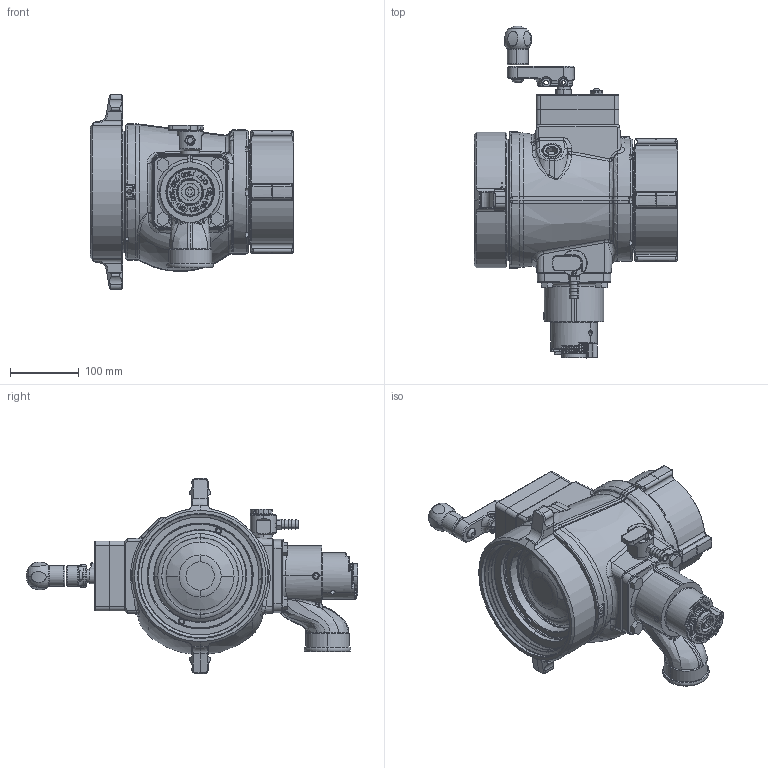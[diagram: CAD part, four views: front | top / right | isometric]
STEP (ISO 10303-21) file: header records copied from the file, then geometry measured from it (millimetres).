
FILE_DESCRIPTION (( 'STEP AP203' ), '1' );
FILE_NAME ('AP7NP-NX-PS.STEP', '2014-10-22T20:10:53', ( '' ), ( '' ), 'SwSTEP 2.0', 'SolidWorks 2014', '' );
FILE_SCHEMA (( 'CONFIG_CONTROL_DESIGN' ));
Length unit declared in the file: inch
Products named in the file (1): AP7NP-NX-PS
Bounding box: 295.52 x 481.84 x 283.46 mm (x, y, z)
Surface area: 565118.7 mm2 (no closed solid volume)
Topology: 0 solids, 62 shells, 1560 faces, 4936 edges, 3319 vertices
Faces by surface type: plane 431, cylinder 385, cone 302, bspline 298, torus 115, sphere 29
Entity records: 101292 total; most frequent: CARTESIAN_POINT 61925, ORIENTED_EDGE 8428, DIRECTION 7152, EDGE_CURVE 4914, VERTEX_POINT 3315, AXIS2_PLACEMENT_3D 2676, VECTOR 1800, LINE 1800
